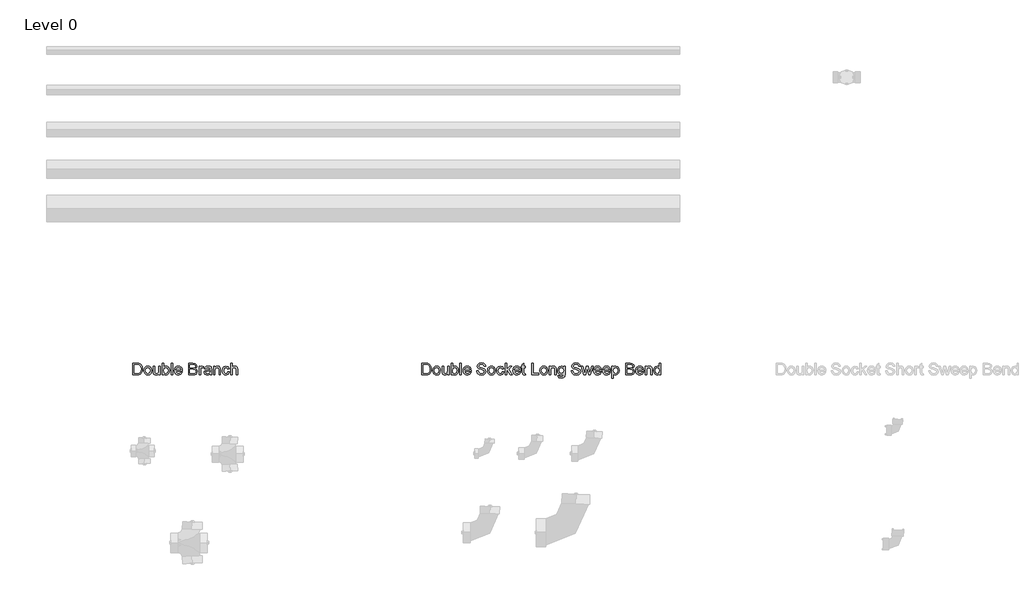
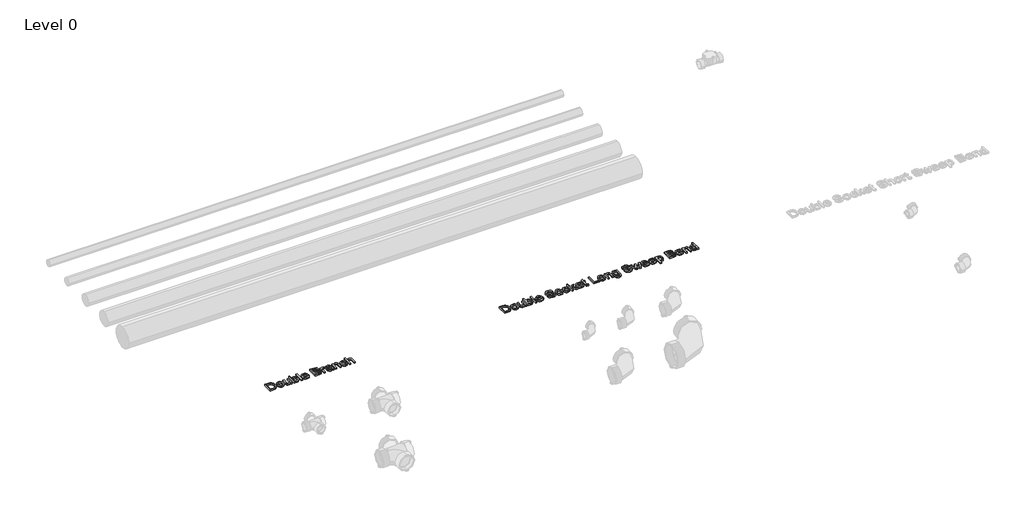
# One storey, part 5 of 10: 2 proxies.
"""IFC4 building model written with IfcOpenShell, lengths in millimetres."""

from ifc_helpers import new_model, si_unit, origin, origin_with_axes, place, context, project, spatial, polyline, outline, extrude, element, save

model = new_model("IFC4")

# Units and contexts
model_context = context("Model", 3, world=origin())
ifc_project = project(units=[si_unit("LENGTHUNIT", "METRE", prefix="MILLI")], contexts=[model_context])

# Site, building, storey
site = spatial("IfcSite", under=ifc_project)
building = spatial("IfcBuilding", under=site)
storey = spatial("IfcBuildingStorey", under=building, Name="Level 0", Elevation=0.0)

# Proxies
placement = place(None, origin())
element("IfcBuildingElementProxy", 1, Name="75mm Arial", ObjectType="75mm Arial", at=placement, inside=storey, context=model_context, shape_type="SweptSolid", body=[
    extrude(outline(polyline([(-5540.6771031, 3356.6243175), (-5540.6771031, 3430.4704713), (-5515.2023435, 3430.4704713), (-5502.0232569, 3429.4067694), (-5491.1698916, 3424.1243175), (-5482.4259012, 3411.5041252), (-5479.5232569, 3393.944029), (-5481.4884012, 3379.0431877), (-5486.5364781, 3368.2889809), (-5493.2792666, 3361.5912646), (-5502.1043867, 3357.8863367), (-5513.9763819, 3356.6243175), (-5540.6771031, 3356.6243175)]), holes=[polyline([(-5531.4463339, 3365.8550867), (-5515.1121992, 3365.8550867), (-5503.2311896, 3367.1892213), (-5496.3802281, 3370.9572502), (-5490.7642425, 3380.1249184), (-5488.7540262, 3394.0882598), (-5492.6933291, 3411.5762405), (-5502.2756608, 3419.7613367), (-5515.3646031, 3421.2397021), (-5531.4463339, 3421.2397021), (-5531.4463339, 3365.8550867)])]), origin_with_axes(), (0.0, 0.0, 1.0), 10.0),
    extrude(outline(polyline([(-5470.2924877, 3383.7397021), (-5468.295793, 3396.8151228), (-5462.3057089, 3406.0053271), (-5454.9048675, 3410.5080314), (-5446.0436896, 3412.0089328), (-5436.346424, 3410.1812586), (-5428.600781, 3404.6982357), (-5423.5234072, 3395.9925566), (-5421.8309492, 3384.4969136), (-5424.8237377, 3368.0726348), (-5433.5406848, 3358.7787646), (-5446.0436896, 3355.4704713), (-5455.8581428, 3357.2913848), (-5463.5947714, 3362.7541252), (-5468.6180586, 3371.6423463), (-5470.2924877, 3383.7397021)]), holes=[polyline([(-5461.0617185, 3383.7577309), (-5456.7888819, 3369.4518415), (-5446.0436896, 3364.7012405), (-5435.334555, 3369.4788848), (-5431.0617185, 3384.0461925), (-5435.3615983, 3398.0275627), (-5446.0436896, 3402.7781636), (-5456.7888819, 3398.0455915), (-5461.0617185, 3383.7577309)])]), origin_with_axes(), (0.0, 0.0, 1.0), 10.0),
    extrude(outline(polyline([(-5376.8309492, 3356.6243175), (-5376.8309492, 3365.9452309), (-5384.0605166, 3358.0891612), (-5393.4896031, 3355.4704713), (-5402.1704925, 3357.3094136), (-5408.1560694, 3361.9247982), (-5410.9054685, 3368.7216732), (-5411.4463339, 3377.303404), (-5411.4463339, 3410.8550867), (-5402.2155646, 3410.8550867), (-5402.2155646, 3381.6483559), (-5401.6566704, 3372.2372982), (-5398.0058291, 3366.7114569), (-5391.1278242, 3364.7012405), (-5383.4204925, 3366.756529), (-5378.3273435, 3372.3544857), (-5376.8309492, 3382.6399425), (-5376.8309492, 3410.8550867), (-5367.60018, 3410.8550867), (-5367.60018, 3356.6243175), (-5376.8309492, 3356.6243175)])), origin_with_axes(), (0.0, 0.0, 1.0), 10.0),
    extrude(outline(polyline([(-5345.6771031, 3356.6243175), (-5354.9078723, 3356.6243175), (-5354.9078723, 3430.4704713), (-5345.6771031, 3430.4704713), (-5345.6771031, 3403.084654), (-5339.2137617, 3409.7778631), (-5331.1819108, 3412.0089328), (-5321.9331127, 3409.9987165), (-5314.7576319, 3404.3466732), (-5310.3495791, 3395.5576107), (-5308.7540262, 3384.5510002), (-5310.4059192, 3372.2282838), (-5315.3615983, 3363.0606155), (-5322.6339841, 3357.3680074), (-5331.2359973, 3355.4704713), (-5339.4436295, 3357.9178872), (-5345.6771031, 3365.2601348), (-5345.6771031, 3356.6243175)]), holes=[polyline([(-5345.6771031, 3384.1183078), (-5343.1530646, 3371.209654), (-5338.3168267, 3366.3283439), (-5332.0292666, 3364.7012405), (-5322.1494589, 3369.4969136), (-5317.9847954, 3383.7937886), (-5321.9781848, 3398.1447502), (-5331.6326319, 3402.7781636), (-5341.5124396, 3397.9824905), (-5345.6771031, 3384.1183078)])]), origin_with_axes(), (0.0, 0.0, 1.0), 10.0),
    extrude(outline(polyline([(-5298.3694108, 3356.6243175), (-5298.3694108, 3430.4704713), (-5289.1386416, 3430.4704713), (-5289.1386416, 3356.6243175), (-5298.3694108, 3356.6243175)])), origin_with_axes(), (0.0, 0.0, 1.0), 10.0),
    extrude(outline(polyline([(-5237.3237377, 3372.7781636), (-5228.2732569, 3371.6243175), (-5236.7378002, 3359.7072502), (-5252.5040262, 3355.4704713), (-5263.3348555, 3357.2981456), (-5271.6686896, 3362.7811684), (-5276.982692, 3371.5634701), (-5278.7540262, 3383.2889809), (-5276.9646632, 3395.4088728), (-5271.5965742, 3404.4728752), (-5263.3754204, 3410.1249184), (-5253.0268627, 3412.0089328), (-5243.0005706, 3410.1294256), (-5234.9890021, 3404.490904), (-5229.7358471, 3395.4449304), (-5227.9847954, 3383.3430675), (-5228.0388819, 3380.8550867), (-5269.5232569, 3380.8550867), (-5264.2137617, 3368.865904), (-5252.3237377, 3364.7012405), (-5243.2732569, 3366.6303271), (-5237.3237377, 3372.7781636)]), holes=[polyline([(-5269.5232569, 3390.0858559), (-5237.2155646, 3390.0858559), (-5240.9114781, 3398.4512405), (-5253.0629204, 3402.7781636), (-5264.4301079, 3399.3256396), (-5269.5232569, 3390.0858559)])]), origin_with_axes(), (0.0, 0.0, 1.0), 10.0),
    extrude(outline(polyline([(-5192.2155646, 3382.0089328), (-5182.9847954, 3382.0089328), (-5180.0100358, 3372.7691492), (-5172.7444108, 3366.927803), (-5161.6746992, 3364.7012405), (-5152.0292666, 3366.3869377), (-5145.8003002, 3371.0203511), (-5143.7540262, 3377.2132598), (-5145.2864781, 3382.9734761), (-5151.5605166, 3387.1651828), (-5165.0010214, 3390.6898223), (-5179.4691704, 3395.2421059), (-5187.3207329, 3402.1110963), (-5189.9078723, 3411.287779), (-5186.7077521, 3421.7354953), (-5177.3597954, 3429.1092934), (-5163.6759012, 3431.6243175), (-5149.0725358, 3428.9921059), (-5139.3369589, 3421.2577309), (-5135.6771031, 3409.7012405), (-5144.9078723, 3409.7012405), (-5150.1362377, 3419.1844136), (-5163.3153242, 3422.3935482), (-5176.5304685, 3419.2204713), (-5180.6771031, 3411.5582117), (-5177.7384012, 3405.1579713), (-5162.6662858, 3400.0017213), (-5146.3321512, 3395.3683078), (-5137.3988579, 3387.8863367), (-5134.5232569, 3377.4476348), (-5137.8315502, 3366.4049665), (-5147.350781, 3358.3460723), (-5161.3141223, 3355.4704713), (-5177.8015021, 3358.5714328), (-5188.2311896, 3367.9103752), (-5192.2155646, 3382.0089328)])), origin_with_axes(), (0.0, 0.0, 1.0), 10.0),
    extrude(outline(polyline([(-5124.1386416, 3383.7397021), (-5122.1419468, 3396.8151228), (-5116.1518627, 3406.0053271), (-5108.7510214, 3410.5080314), (-5099.8898435, 3412.0089328), (-5090.1925779, 3410.1812586), (-5082.4469348, 3404.6982357), (-5077.369561, 3395.9925566), (-5075.6771031, 3384.4969136), (-5078.6698916, 3368.0726348), (-5087.3868387, 3358.7787646), (-5099.8898435, 3355.4704713), (-5109.7042966, 3357.2913848), (-5117.4409252, 3362.7541252), (-5122.4642125, 3371.6423463), (-5124.1386416, 3383.7397021)]), holes=[polyline([(-5114.9078723, 3383.7577309), (-5110.6350358, 3369.4518415), (-5099.8898435, 3364.7012405), (-5089.1807089, 3369.4788848), (-5084.9078723, 3384.0461925), (-5089.2077521, 3398.0275627), (-5099.8898435, 3402.7781636), (-5110.6350358, 3398.0455915), (-5114.9078723, 3383.7577309)])]), origin_with_axes(), (0.0, 0.0, 1.0), 10.0),
    extrude(outline(polyline([(-5030.6771031, 3376.2397021), (-5021.4463339, 3375.0858559), (-5028.8561896, 3360.6717934), (-5043.4956127, 3355.4704713), (-5053.314573, 3357.284624), (-5060.9926079, 3362.7270819), (-5065.948287, 3371.5589629), (-5067.60018, 3383.5413848), (-5064.7786656, 3398.8749184), (-5056.178906, 3408.7276828), (-5043.6218146, 3412.0089328), (-5029.5863579, 3407.5017213), (-5022.60018, 3394.7012405), (-5031.8309492, 3393.5473944), (-5036.1128002, 3400.4614569), (-5043.5496992, 3402.7781636), (-5054.2498194, 3398.2168655), (-5058.3694108, 3383.7937886), (-5054.3399637, 3369.2354953), (-5043.8021031, 3364.7012405), (-5035.1031848, 3367.5317694), (-5030.6771031, 3376.2397021)])), origin_with_axes(), (0.0, 0.0, 1.0), 10.0),
    extrude(outline(polyline([(-5013.3694108, 3356.6243175), (-5013.3694108, 3430.4704713), (-5004.1386416, 3430.4704713), (-5004.1386416, 3390.7889809), (-4983.4415262, 3410.8550867), (-4970.6771031, 3410.8550867), (-4991.6266223, 3390.5365771), (-4969.5232569, 3356.6243175), (-4980.3045069, 3356.6243175), (-4998.2432089, 3384.1183078), (-5004.1386416, 3378.4031636), (-5004.1386416, 3356.6243175), (-5013.3694108, 3356.6243175)])), origin_with_axes(), (0.0, 0.0, 1.0), 10.0),
    extrude(outline(polyline([(-4923.4775839, 3372.7781636), (-4914.4271031, 3371.6243175), (-4922.8916464, 3359.7072502), (-4938.6578723, 3355.4704713), (-4949.4887017, 3357.2981456), (-4957.8225358, 3362.7811684), (-4963.1365382, 3371.5634701), (-4964.9078723, 3383.2889809), (-4963.1185093, 3395.4088728), (-4957.7504204, 3404.4728752), (-4949.5292666, 3410.1249184), (-4939.1807089, 3412.0089328), (-4929.1544168, 3410.1294256), (-4921.1428483, 3404.490904), (-4915.8896932, 3395.4449304), (-4914.1386416, 3383.3430675), (-4914.1927281, 3380.8550867), (-4955.6771031, 3380.8550867), (-4950.3676079, 3368.865904), (-4938.4775839, 3364.7012405), (-4929.4271031, 3366.6303271), (-4923.4775839, 3372.7781636)]), holes=[polyline([(-4955.6771031, 3390.0858559), (-4923.3694108, 3390.0858559), (-4927.0653242, 3398.4512405), (-4939.2167666, 3402.7781636), (-4950.5839541, 3399.3256396), (-4955.6771031, 3390.0858559)])]), origin_with_axes(), (0.0, 0.0, 1.0), 10.0),
    extrude(outline(polyline([(-4885.2924877, 3364.3226348), (-4884.1386416, 3356.3538848), (-4891.0436896, 3355.4704713), (-4898.7780646, 3357.0029232), (-4902.6362377, 3361.0233559), (-4903.7540262, 3371.4981155), (-4903.7540262, 3401.6243175), (-4910.6771031, 3401.6243175), (-4910.6771031, 3410.8550867), (-4903.7540262, 3410.8550867), (-4903.7540262, 3424.0341732), (-4894.5232569, 3429.4608559), (-4894.5232569, 3410.8550867), (-4885.2924877, 3410.8550867), (-4885.2924877, 3401.6243175), (-4894.5232569, 3401.6243175), (-4894.5232569, 3371.7685482), (-4894.0364781, 3367.0089328), (-4892.4589541, 3365.3232357), (-4889.3129204, 3364.7012405), (-4885.2924877, 3364.3226348)])), origin_with_axes(), (0.0, 0.0, 1.0), 10.0),
    extrude(outline(polyline([(-4846.0617185, 3356.6243175), (-4846.0617185, 3430.4704713), (-4836.8309492, 3430.4704713), (-4836.8309492, 3365.8550867), (-4799.9078723, 3365.8550867), (-4799.9078723, 3356.6243175), (-4846.0617185, 3356.6243175)])), origin_with_axes(), (0.0, 0.0, 1.0), 10.0),
    extrude(outline(polyline([(-4792.9847954, 3383.7397021), (-4790.9881007, 3396.8151228), (-4784.9980166, 3406.0053271), (-4777.5971752, 3410.5080314), (-4768.7359973, 3412.0089328), (-4759.0387317, 3410.1812586), (-4751.2930887, 3404.6982357), (-4746.2157149, 3395.9925566), (-4744.5232569, 3384.4969136), (-4747.5160454, 3368.0726348), (-4756.2329925, 3358.7787646), (-4768.7359973, 3355.4704713), (-4778.5504504, 3357.2913848), (-4786.2870791, 3362.7541252), (-4791.3103663, 3371.6423463), (-4792.9847954, 3383.7397021)]), holes=[polyline([(-4783.7540262, 3383.7577309), (-4779.4811896, 3369.4518415), (-4768.7359973, 3364.7012405), (-4758.0268627, 3369.4788848), (-4753.7540262, 3384.0461925), (-4758.053906, 3398.0275627), (-4768.7359973, 3402.7781636), (-4779.4811896, 3398.0455915), (-4783.7540262, 3383.7577309)])]), origin_with_axes(), (0.0, 0.0, 1.0), 10.0),
    extrude(outline(polyline([(-4734.1386416, 3356.6243175), (-4734.1386416, 3410.8550867), (-4724.9078723, 3410.8550867), (-4724.9078723, 3403.2829713), (-4717.8495791, 3409.8274425), (-4708.2131608, 3412.0089328), (-4699.4962137, 3410.2511203), (-4693.5466944, 3405.6357357), (-4690.7792666, 3398.8478752), (-4690.2924877, 3389.9235963), (-4690.2924877, 3356.6243175), (-4699.5232569, 3356.6243175), (-4699.5232569, 3388.6796059), (-4700.5869589, 3396.8466732), (-4704.3459733, 3401.1645819), (-4710.6831127, 3402.7781636), (-4720.6981367, 3399.1543655), (-4724.9078723, 3385.3983559), (-4724.9078723, 3356.6243175), (-4734.1386416, 3356.6243175)])), origin_with_axes(), (0.0, 0.0, 1.0), 10.0),
    extrude(outline(polyline([(-4679.9078723, 3352.0089328), (-4670.6771031, 3350.8550867), (-4667.6843146, 3345.9872982), (-4658.7239781, 3343.9320098), (-4649.2768627, 3346.2577309), (-4644.7696512, 3352.7841732), (-4644.1386416, 3363.5473944), (-4650.6380406, 3358.3550867), (-4658.5617185, 3356.6243175), (-4668.0786956, 3358.639041), (-4675.1753002, 3364.6832117), (-4679.5901139, 3373.5443896), (-4681.0617185, 3384.0101348), (-4678.4204925, 3398.3160242), (-4670.7762617, 3408.4392213), (-4659.0124396, 3412.0089328), (-4650.7777642, 3409.9897021), (-4644.1386416, 3403.9320098), (-4644.1386416, 3410.8550867), (-4634.9078723, 3410.8550867), (-4634.9078723, 3364.0341732), (-4637.4319108, 3346.1044857), (-4645.4277041, 3337.7661444), (-4658.9042666, 3334.7012405), (-4674.2558291, 3339.0191492), (-4678.5940202, 3344.4255494), (-4679.9078723, 3352.0089328)]), holes=[polyline([(-4671.8309492, 3384.6411444), (-4667.8916464, 3370.3532838), (-4658.0028242, 3365.8550867), (-4648.132031, 3370.3262405), (-4644.1386416, 3384.3707117), (-4648.2492185, 3398.1357357), (-4658.147055, 3402.7781636), (-4667.8375598, 3398.2078511), (-4671.8309492, 3384.6411444)])]), origin_with_axes(), (0.0, 0.0, 1.0), 10.0),
    extrude(outline(polyline([(-4594.5232569, 3382.0089328), (-4585.2924877, 3382.0089328), (-4582.3177281, 3372.7691492), (-4575.0521031, 3366.927803), (-4563.9823916, 3364.7012405), (-4554.3369589, 3366.3869377), (-4548.1079925, 3371.0203511), (-4546.0617185, 3377.2132598), (-4547.5941704, 3382.9734761), (-4553.8682089, 3387.1651828), (-4567.3087137, 3390.6898223), (-4581.7768627, 3395.2421059), (-4589.6284252, 3402.1110963), (-4592.2155646, 3411.287779), (-4589.0154444, 3421.7354953), (-4579.6674877, 3429.1092934), (-4565.9835935, 3431.6243175), (-4551.3802281, 3428.9921059), (-4541.6446512, 3421.2577309), (-4537.9847954, 3409.7012405), (-4547.2155646, 3409.7012405), (-4552.44393, 3419.1844136), (-4565.6230166, 3422.3935482), (-4578.8381608, 3419.2204713), (-4582.9847954, 3411.5582117), (-4580.0460935, 3405.1579713), (-4564.9739781, 3400.0017213), (-4548.6398435, 3395.3683078), (-4539.7065502, 3387.8863367), (-4536.8309492, 3377.4476348), (-4540.1392425, 3366.4049665), (-4549.6584733, 3358.3460723), (-4563.6218146, 3355.4704713), (-4580.1091944, 3358.5714328), (-4590.5388819, 3367.9103752), (-4594.5232569, 3382.0089328)])), origin_with_axes(), (0.0, 0.0, 1.0), 10.0),
    extrude(outline(polyline([(-4515.1422473, 3356.6243175), (-4531.6386416, 3410.8550867), (-4522.0472954, 3410.8550867), (-4512.6903242, 3379.2144617), (-4509.8958531, 3367.9103752), (-4507.6061896, 3378.7997982), (-4500.1602762, 3410.8550867), (-4489.16268, 3410.8550867), (-4481.7528242, 3378.8899425), (-4479.7155646, 3369.0281636), (-4476.7948916, 3379.4308078), (-4467.4198916, 3410.8550867), (-4457.7924877, 3410.8550867), (-4474.4150839, 3356.6243175), (-4485.5749396, 3356.6243175), (-4492.6602762, 3388.4272021), (-4494.7155646, 3398.3430675), (-4503.8561896, 3356.6243175), (-4515.1422473, 3356.6243175)])), origin_with_axes(), (0.0, 0.0, 1.0), 10.0),
    extrude(outline(polyline([(-4413.4775839, 3372.7781636), (-4404.4271031, 3371.6243175), (-4412.8916464, 3359.7072502), (-4428.6578723, 3355.4704713), (-4439.4887017, 3357.2981456), (-4447.8225358, 3362.7811684), (-4453.1365382, 3371.5634701), (-4454.9078723, 3383.2889809), (-4453.1185093, 3395.4088728), (-4447.7504204, 3404.4728752), (-4439.5292666, 3410.1249184), (-4429.1807089, 3412.0089328), (-4419.1544168, 3410.1294256), (-4411.1428483, 3404.490904), (-4405.8896932, 3395.4449304), (-4404.1386416, 3383.3430675), (-4404.1927281, 3380.8550867), (-4445.6771031, 3380.8550867), (-4440.3676079, 3368.865904), (-4428.4775839, 3364.7012405), (-4419.4271031, 3366.6303271), (-4413.4775839, 3372.7781636)]), holes=[polyline([(-4445.6771031, 3390.0858559), (-4413.3694108, 3390.0858559), (-4417.0653242, 3398.4512405), (-4429.2167666, 3402.7781636), (-4440.5839541, 3399.3256396), (-4445.6771031, 3390.0858559)])]), origin_with_axes(), (0.0, 0.0, 1.0), 10.0),
    extrude(outline(polyline([(-4356.9391223, 3372.7781636), (-4347.8886416, 3371.6243175), (-4356.3531848, 3359.7072502), (-4372.1194108, 3355.4704713), (-4382.9502401, 3357.2981456), (-4391.2840742, 3362.7811684), (-4396.5980767, 3371.5634701), (-4398.3694108, 3383.2889809), (-4396.5800478, 3395.4088728), (-4391.2119589, 3404.4728752), (-4382.990805, 3410.1249184), (-4372.6422473, 3412.0089328), (-4362.6159553, 3410.1294256), (-4354.6043867, 3404.490904), (-4349.3512317, 3395.4449304), (-4347.60018, 3383.3430675), (-4347.6542666, 3380.8550867), (-4389.1386416, 3380.8550867), (-4383.8291464, 3368.865904), (-4371.9391223, 3364.7012405), (-4362.8886416, 3366.6303271), (-4356.9391223, 3372.7781636)]), holes=[polyline([(-4389.1386416, 3390.0858559), (-4356.8309492, 3390.0858559), (-4360.5268627, 3398.4512405), (-4372.678305, 3402.7781636), (-4384.0454925, 3399.3256396), (-4389.1386416, 3390.0858559)])]), origin_with_axes(), (0.0, 0.0, 1.0), 10.0),
    extrude(outline(polyline([(-4338.3694108, 3335.8550867), (-4338.3694108, 3410.8550867), (-4329.1386416, 3410.8550867), (-4329.1386416, 3401.8046059), (-4322.75643, 3409.4578511), (-4314.1386416, 3412.0089328), (-4302.4379204, 3408.4392213), (-4294.7936896, 3398.3791252), (-4292.2155646, 3384.1543655), (-4295.1272233, 3369.1994377), (-4303.5827521, 3359.0131396), (-4315.25643, 3355.4704713), (-4323.288281, 3357.8412646), (-4329.1386416, 3363.8358559), (-4329.1386416, 3335.8550867), (-4338.3694108, 3335.8550867)]), holes=[polyline([(-4329.1386416, 3383.3070098), (-4325.1452521, 3369.2445098), (-4315.4547473, 3364.7012405), (-4305.5659252, 3369.4067694), (-4301.4463339, 3383.9921059), (-4305.4667666, 3398.0906636), (-4315.0761416, 3402.7781636), (-4324.8748194, 3397.7931877), (-4329.1386416, 3383.3070098)])]), origin_with_axes(), (0.0, 0.0, 1.0), 10.0),
    extrude(outline(polyline([(-4251.8309492, 3356.6243175), (-4251.8309492, 3430.4704713), (-4223.6518627, 3430.4704713), (-4209.850781, 3428.2979953), (-4201.7017425, 3421.6183078), (-4198.7540262, 3412.1711925), (-4201.2329925, 3403.5443896), (-4208.7239781, 3397.0089328), (-4199.6284252, 3390.1219136), (-4196.4463339, 3378.6375386), (-4198.6188098, 3368.7126588), (-4204.0004204, 3361.6453511), (-4212.0322714, 3357.8953511), (-4223.8682089, 3356.6243175), (-4251.8309492, 3356.6243175)]), holes=[polyline([(-4242.60018, 3400.4704713), (-4225.7432089, 3400.4704713), (-4215.8994589, 3401.2637405), (-4209.9769829, 3404.6802069), (-4207.9847954, 3410.6928271), (-4209.8417666, 3416.7144617), (-4215.1602762, 3420.2751588), (-4227.0232569, 3421.2397021), (-4242.60018, 3421.2397021), (-4242.60018, 3400.4704713)]), polyline([(-4242.60018, 3365.8550867), (-4223.6698916, 3365.8550867), (-4216.81893, 3366.2156636), (-4211.022656, 3368.22588), (-4207.1825117, 3372.3274425), (-4205.6771031, 3378.5473944), (-4207.44393, 3385.7228752), (-4213.1680887, 3390.0047261), (-4224.5713339, 3391.2397021), (-4242.60018, 3391.2397021), (-4242.60018, 3365.8550867)])]), origin_with_axes(), (0.0, 0.0, 1.0), 10.0),
    extrude(outline(polyline([(-4146.9391223, 3372.7781636), (-4137.8886416, 3371.6243175), (-4146.3531848, 3359.7072502), (-4162.1194108, 3355.4704713), (-4172.9502401, 3357.2981456), (-4181.2840742, 3362.7811684), (-4186.5980767, 3371.5634701), (-4188.3694108, 3383.2889809), (-4186.5800478, 3395.4088728), (-4181.2119589, 3404.4728752), (-4172.990805, 3410.1249184), (-4162.6422473, 3412.0089328), (-4152.6159553, 3410.1294256), (-4144.6043867, 3404.490904), (-4139.3512317, 3395.4449304), (-4137.60018, 3383.3430675), (-4137.6542666, 3380.8550867), (-4179.1386416, 3380.8550867), (-4173.8291464, 3368.865904), (-4161.9391223, 3364.7012405), (-4152.8886416, 3366.6303271), (-4146.9391223, 3372.7781636)]), holes=[polyline([(-4179.1386416, 3390.0858559), (-4146.8309492, 3390.0858559), (-4150.5268627, 3398.4512405), (-4162.678305, 3402.7781636), (-4174.0454925, 3399.3256396), (-4179.1386416, 3390.0858559)])]), origin_with_axes(), (0.0, 0.0, 1.0), 10.0),
    extrude(outline(polyline([(-4128.3694108, 3356.6243175), (-4128.3694108, 3410.8550867), (-4119.1386416, 3410.8550867), (-4119.1386416, 3403.2829713), (-4112.0803483, 3409.8274425), (-4102.44393, 3412.0089328), (-4093.7269829, 3410.2511203), (-4087.7774637, 3405.6357357), (-4085.0100358, 3398.8478752), (-4084.5232569, 3389.9235963), (-4084.5232569, 3356.6243175), (-4093.7540262, 3356.6243175), (-4093.7540262, 3388.6796059), (-4094.8177281, 3396.8466732), (-4098.5767425, 3401.1645819), (-4104.9138819, 3402.7781636), (-4114.928906, 3399.1543655), (-4119.1386416, 3385.3983559), (-4119.1386416, 3356.6243175), (-4128.3694108, 3356.6243175)])), origin_with_axes(), (0.0, 0.0, 1.0), 10.0),
    extrude(outline(polyline([(-4038.3694108, 3356.6243175), (-4038.3694108, 3365.3322502), (-4044.4766824, 3357.935916), (-4052.9186896, 3355.4704713), (-4064.3489781, 3359.0401828), (-4072.4259012, 3369.0011203), (-4075.2924877, 3383.6856155), (-4072.6512617, 3398.3791252), (-4064.7365983, 3408.4933078), (-4052.9547473, 3412.0089328), (-4044.4451319, 3409.4939088), (-4038.3694108, 3402.9584521), (-4038.3694108, 3430.4704713), (-4029.1386416, 3430.4704713), (-4029.1386416, 3356.6243175), (-4038.3694108, 3356.6243175)]), holes=[polyline([(-4066.0617185, 3383.7216732), (-4061.897055, 3369.4338127), (-4052.0713339, 3364.7012405), (-4042.3628002, 3369.2174665), (-4038.3694108, 3383.0185482), (-4042.4349156, 3398.0005194), (-4052.4499396, 3402.7781636), (-4062.1674877, 3398.1898223), (-4066.0617185, 3383.7216732)])]), origin_with_axes(), (0.0, 0.0, 1.0), 10.0),
])
element("IfcBuildingElementProxy", 2, Name="75mm Arial", ObjectType="75mm Arial", at=placement, inside=storey, context=model_context, shape_type="SweptSolid", body=[
    extrude(outline(polyline([(-7365.4847954, 3356.6243175), (-7365.4847954, 3430.4704713), (-7340.0100358, 3430.4704713), (-7326.8309492, 3429.4067694), (-7315.9775839, 3424.1243175), (-7307.2335935, 3411.5041252), (-7304.3309492, 3393.944029), (-7306.2960935, 3379.0431877), (-7311.3441704, 3368.2889809), (-7318.0869589, 3361.5912646), (-7326.9120791, 3357.8863367), (-7338.7840742, 3356.6243175), (-7365.4847954, 3356.6243175)]), holes=[polyline([(-7356.2540262, 3365.8550867), (-7339.9198916, 3365.8550867), (-7328.0388819, 3367.1892213), (-7321.1879204, 3370.9572502), (-7315.5719348, 3380.1249184), (-7313.5617185, 3394.0882598), (-7317.5010214, 3411.5762405), (-7327.0833531, 3419.7613367), (-7340.1722954, 3421.2397021), (-7356.2540262, 3421.2397021), (-7356.2540262, 3365.8550867)])]), origin_with_axes(), (0.0, 0.0, 1.0), 10.0),
    extrude(outline(polyline([(-7295.10018, 3383.7397021), (-7293.1034853, 3396.8151228), (-7287.1134012, 3406.0053271), (-7279.7125598, 3410.5080314), (-7270.8513819, 3412.0089328), (-7261.1541163, 3410.1812586), (-7253.4084733, 3404.6982357), (-7248.3310995, 3395.9925566), (-7246.6386416, 3384.4969136), (-7249.63143, 3368.0726348), (-7258.3483771, 3358.7787646), (-7270.8513819, 3355.4704713), (-7280.6658351, 3357.2913848), (-7288.4024637, 3362.7541252), (-7293.4257509, 3371.6423463), (-7295.10018, 3383.7397021)]), holes=[polyline([(-7285.8694108, 3383.7577309), (-7281.5965742, 3369.4518415), (-7270.8513819, 3364.7012405), (-7260.1422473, 3369.4788848), (-7255.8694108, 3384.0461925), (-7260.1692906, 3398.0275627), (-7270.8513819, 3402.7781636), (-7281.5965742, 3398.0455915), (-7285.8694108, 3383.7577309)])]), origin_with_axes(), (0.0, 0.0, 1.0), 10.0),
    extrude(outline(polyline([(-7201.6386416, 3356.6243175), (-7201.6386416, 3365.9452309), (-7208.8682089, 3358.0891612), (-7218.2972954, 3355.4704713), (-7226.9781848, 3357.3094136), (-7232.9637617, 3361.9247982), (-7235.7131608, 3368.7216732), (-7236.2540262, 3377.303404), (-7236.2540262, 3410.8550867), (-7227.0232569, 3410.8550867), (-7227.0232569, 3381.6483559), (-7226.4643627, 3372.2372982), (-7222.8135214, 3366.7114569), (-7215.9355166, 3364.7012405), (-7208.2281848, 3366.756529), (-7203.1350358, 3372.3544857), (-7201.6386416, 3382.6399425), (-7201.6386416, 3410.8550867), (-7192.4078723, 3410.8550867), (-7192.4078723, 3356.6243175), (-7201.6386416, 3356.6243175)])), origin_with_axes(), (0.0, 0.0, 1.0), 10.0),
    extrude(outline(polyline([(-7170.4847954, 3356.6243175), (-7179.7155646, 3356.6243175), (-7179.7155646, 3430.4704713), (-7170.4847954, 3430.4704713), (-7170.4847954, 3403.084654), (-7164.0214541, 3409.7778631), (-7155.9896031, 3412.0089328), (-7146.740805, 3409.9987165), (-7139.5653242, 3404.3466732), (-7135.1572714, 3395.5576107), (-7133.5617185, 3384.5510002), (-7135.2136115, 3372.2282838), (-7140.1692906, 3363.0606155), (-7147.4416764, 3357.3680074), (-7156.0436896, 3355.4704713), (-7164.2513218, 3357.9178872), (-7170.4847954, 3365.2601348), (-7170.4847954, 3356.6243175)]), holes=[polyline([(-7170.4847954, 3384.1183078), (-7167.9607569, 3371.209654), (-7163.124519, 3366.3283439), (-7156.8369589, 3364.7012405), (-7146.9571512, 3369.4969136), (-7142.7924877, 3383.7937886), (-7146.7858771, 3398.1447502), (-7156.4403242, 3402.7781636), (-7166.3201319, 3397.9824905), (-7170.4847954, 3384.1183078)])]), origin_with_axes(), (0.0, 0.0, 1.0), 10.0),
    extrude(outline(polyline([(-7123.1771031, 3356.6243175), (-7123.1771031, 3430.4704713), (-7113.9463339, 3430.4704713), (-7113.9463339, 3356.6243175), (-7123.1771031, 3356.6243175)])), origin_with_axes(), (0.0, 0.0, 1.0), 10.0),
    extrude(outline(polyline([(-7062.13143, 3372.7781636), (-7053.0809492, 3371.6243175), (-7061.5454925, 3359.7072502), (-7077.3117185, 3355.4704713), (-7088.1425478, 3357.2981456), (-7096.4763819, 3362.7811684), (-7101.7903843, 3371.5634701), (-7103.5617185, 3383.2889809), (-7101.7723555, 3395.4088728), (-7096.4042666, 3404.4728752), (-7088.1831127, 3410.1249184), (-7077.834555, 3412.0089328), (-7067.8082629, 3410.1294256), (-7059.7966944, 3404.490904), (-7054.5435394, 3395.4449304), (-7052.7924877, 3383.3430675), (-7052.8465742, 3380.8550867), (-7094.3309492, 3380.8550867), (-7089.0214541, 3368.865904), (-7077.13143, 3364.7012405), (-7068.0809492, 3366.6303271), (-7062.13143, 3372.7781636)]), holes=[polyline([(-7094.3309492, 3390.0858559), (-7062.0232569, 3390.0858559), (-7065.7191704, 3398.4512405), (-7077.8706127, 3402.7781636), (-7089.2378002, 3399.3256396), (-7094.3309492, 3390.0858559)])]), origin_with_axes(), (0.0, 0.0, 1.0), 10.0),
    extrude(outline(polyline([(-7013.5617185, 3356.6243175), (-7013.5617185, 3430.4704713), (-6985.3826319, 3430.4704713), (-6971.5815502, 3428.2979953), (-6963.4325117, 3421.6183078), (-6960.4847954, 3412.1711925), (-6962.9637617, 3403.5443896), (-6970.4547473, 3397.0089328), (-6961.3591944, 3390.1219136), (-6958.1771031, 3378.6375386), (-6960.3495791, 3368.7126588), (-6965.7311896, 3361.6453511), (-6973.7630406, 3357.8953511), (-6985.5989781, 3356.6243175), (-7013.5617185, 3356.6243175)]), holes=[polyline([(-7004.3309492, 3365.8550867), (-6985.4006608, 3365.8550867), (-6978.5496992, 3366.2156636), (-6972.7534252, 3368.22588), (-6968.913281, 3372.3274425), (-6967.4078723, 3378.5473944), (-6969.1746992, 3385.7228752), (-6974.8988579, 3390.0047261), (-6986.3021031, 3391.2397021), (-7004.3309492, 3391.2397021), (-7004.3309492, 3365.8550867)]), polyline([(-7004.3309492, 3400.4704713), (-6987.4739781, 3400.4704713), (-6977.6302281, 3401.2637405), (-6971.7077521, 3404.6802069), (-6969.7155646, 3410.6928271), (-6971.5725358, 3416.7144617), (-6976.8910454, 3420.2751588), (-6988.7540262, 3421.2397021), (-7004.3309492, 3421.2397021), (-7004.3309492, 3400.4704713)])]), origin_with_axes(), (0.0, 0.0, 1.0), 10.0),
    extrude(outline(polyline([(-6946.6386416, 3356.6243175), (-6946.6386416, 3410.8550867), (-6938.5617185, 3410.8550867), (-6938.5617185, 3402.8322502), (-6932.8285454, 3410.2240771), (-6927.0593146, 3412.0089328), (-6917.7924877, 3409.1603752), (-6920.8754204, 3400.8851348), (-6927.365805, 3402.7781636), (-6932.585156, 3400.9572502), (-6935.9114781, 3395.9091732), (-6937.4078723, 3385.1279232), (-6937.4078723, 3356.6243175), (-6946.6386416, 3356.6243175)])), origin_with_axes(), (0.0, 0.0, 1.0), 10.0),
    extrude(outline(polyline([(-6877.4078723, 3363.5473944), (-6886.3591944, 3357.2913848), (-6896.2480166, 3355.4704713), (-6909.6524637, 3359.8514809), (-6914.3309492, 3371.0473944), (-6912.5641223, 3378.3490771), (-6907.9216944, 3383.6495578), (-6901.4583531, 3386.678404), (-6893.4715742, 3388.0666252), (-6877.4619589, 3391.2397021), (-6877.4078723, 3393.2949905), (-6879.9499396, 3400.1098944), (-6890.1542666, 3402.7781636), (-6899.4932089, 3401.0023223), (-6903.9463339, 3394.7012405), (-6913.1771031, 3395.8550867), (-6909.1837137, 3404.8695098), (-6901.1428483, 3410.1519617), (-6888.9643627, 3412.0089328), (-6877.7774637, 3410.3683078), (-6871.4583531, 3406.2487165), (-6868.6278242, 3399.9836925), (-6868.1771031, 3391.9067694), (-6868.1771031, 3380.4223944), (-6867.7083531, 3364.3857357), (-6865.8694108, 3356.6243175), (-6875.10018, 3356.6243175), (-6877.4078723, 3363.5473944)]), holes=[polyline([(-6877.4078723, 3382.0089328), (-6892.2996992, 3379.178404), (-6900.241406, 3377.6820098), (-6903.8381608, 3375.2481155), (-6905.10018, 3371.6964328), (-6902.350781, 3366.7024425), (-6894.2828723, 3364.7012405), (-6884.94393, 3366.9097742), (-6878.9222954, 3372.2553271), (-6877.4619589, 3379.3947502), (-6877.4078723, 3382.0089328)])]), origin_with_axes(), (0.0, 0.0, 1.0), 10.0),
    extrude(outline(polyline([(-6855.4847954, 3356.6243175), (-6855.4847954, 3410.8550867), (-6846.2540262, 3410.8550867), (-6846.2540262, 3403.2829713), (-6839.1957329, 3409.8274425), (-6829.5593146, 3412.0089328), (-6820.8423675, 3410.2511203), (-6814.8928483, 3405.6357357), (-6812.1254204, 3398.8478752), (-6811.6386416, 3389.9235963), (-6811.6386416, 3356.6243175), (-6820.8694108, 3356.6243175), (-6820.8694108, 3388.6796059), (-6821.9331127, 3396.8466732), (-6825.6921271, 3401.1645819), (-6832.0292666, 3402.7781636), (-6842.0442906, 3399.1543655), (-6846.2540262, 3385.3983559), (-6846.2540262, 3356.6243175), (-6855.4847954, 3356.6243175)])), origin_with_axes(), (0.0, 0.0, 1.0), 10.0),
    extrude(outline(polyline([(-6764.3309492, 3376.2397021), (-6755.10018, 3375.0858559), (-6762.5100358, 3360.6717934), (-6777.1494589, 3355.4704713), (-6786.9684192, 3357.284624), (-6794.6464541, 3362.7270819), (-6799.6021331, 3371.5589629), (-6801.2540262, 3383.5413848), (-6798.4325117, 3398.8749184), (-6789.8327521, 3408.7276828), (-6777.2756608, 3412.0089328), (-6763.2402041, 3407.5017213), (-6756.2540262, 3394.7012405), (-6765.4847954, 3393.5473944), (-6769.7666464, 3400.4614569), (-6777.2035454, 3402.7781636), (-6787.9036656, 3398.2168655), (-6792.0232569, 3383.7937886), (-6787.9938098, 3369.2354953), (-6777.4559492, 3364.7012405), (-6768.757031, 3367.5317694), (-6764.3309492, 3376.2397021)])), origin_with_axes(), (0.0, 0.0, 1.0), 10.0),
    extrude(outline(polyline([(-6747.0232569, 3356.6243175), (-6747.0232569, 3430.4704713), (-6737.7924877, 3430.4704713), (-6737.7924877, 3403.319029), (-6730.5944709, 3409.8364569), (-6721.7287858, 3412.0089328), (-6711.3621992, 3409.6381396), (-6705.0701319, 3403.084654), (-6703.1771031, 3390.9512405), (-6703.1771031, 3356.6243175), (-6712.4078723, 3356.6243175), (-6712.4078723, 3389.9957117), (-6715.3465742, 3399.7312886), (-6723.6759012, 3402.7781636), (-6731.2390021, 3400.7228752), (-6736.2870791, 3395.1519617), (-6737.7924877, 3385.4344136), (-6737.7924877, 3356.6243175), (-6747.0232569, 3356.6243175)])), origin_with_axes(), (0.0, 0.0, 1.0), 10.0),
])

save(model, "model.ifc")
